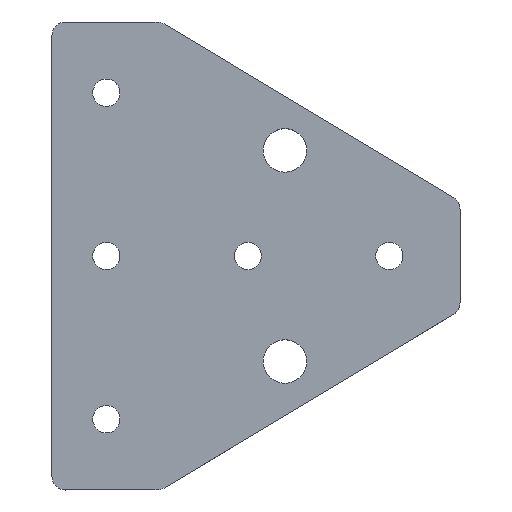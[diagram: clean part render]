
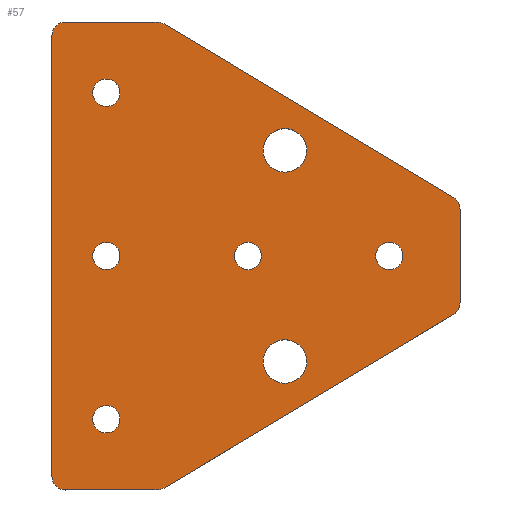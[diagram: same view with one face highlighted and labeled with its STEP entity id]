
A CAD part, top view. The second image highlights one B-rep face of the part: STEP entity #57.
In plain terms, the highlighted planar face has unit normal (0, 0, 1).
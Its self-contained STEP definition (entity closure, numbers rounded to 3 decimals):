
#57=ADVANCED_FACE('',(#258,#260,#262,#264,#266,#268,#270,#272),#274,.T.);
#258=FACE_BOUND('',#259,.T.);
#259=EDGE_LOOP('',(#445,#446,#447,#448,#449,#450,#451,#452,#453,#454,#455,#456));
#260=FACE_BOUND('',#261,.T.);
#261=EDGE_LOOP('',(#457));
#262=FACE_BOUND('',#263,.T.);
#263=EDGE_LOOP('',(#458));
#264=FACE_BOUND('',#265,.T.);
#265=EDGE_LOOP('',(#459));
#266=FACE_BOUND('',#267,.T.);
#267=EDGE_LOOP('',(#460));
#268=FACE_BOUND('',#269,.T.);
#269=EDGE_LOOP('',(#461));
#270=FACE_BOUND('',#271,.T.);
#271=EDGE_LOOP('',(#462));
#272=FACE_BOUND('',#273,.T.);
#273=EDGE_LOOP('',(#463));
#274=PLANE('',#275);
#275=AXIS2_PLACEMENT_3D('',#276,#277,#278);
#276=CARTESIAN_POINT('',(0.,0.,3.));
#277=DIRECTION('',(0.,0.,1.));
#278=DIRECTION('',(-1.,0.,0.));
#445=ORIENTED_EDGE('',*,*,#545,.T.);
#446=ORIENTED_EDGE('',*,*,#546,.T.);
#447=ORIENTED_EDGE('',*,*,#547,.T.);
#448=ORIENTED_EDGE('',*,*,#548,.T.);
#449=ORIENTED_EDGE('',*,*,#549,.T.);
#450=ORIENTED_EDGE('',*,*,#550,.T.);
#451=ORIENTED_EDGE('',*,*,#551,.T.);
#452=ORIENTED_EDGE('',*,*,#552,.T.);
#453=ORIENTED_EDGE('',*,*,#553,.T.);
#454=ORIENTED_EDGE('',*,*,#554,.T.);
#455=ORIENTED_EDGE('',*,*,#555,.T.);
#456=ORIENTED_EDGE('',*,*,#556,.T.);
#457=ORIENTED_EDGE('',*,*,#557,.T.);
#458=ORIENTED_EDGE('',*,*,#558,.T.);
#459=ORIENTED_EDGE('',*,*,#559,.T.);
#460=ORIENTED_EDGE('',*,*,#560,.T.);
#461=ORIENTED_EDGE('',*,*,#561,.T.);
#462=ORIENTED_EDGE('',*,*,#562,.T.);
#463=ORIENTED_EDGE('',*,*,#563,.T.);
#545=EDGE_CURVE('',#614,#615,#616,.T.);
#546=EDGE_CURVE('',#615,#617,#618,.T.);
#547=EDGE_CURVE('',#617,#619,#620,.T.);
#548=EDGE_CURVE('',#619,#621,#622,.T.);
#549=EDGE_CURVE('',#621,#623,#624,.T.);
#550=EDGE_CURVE('',#623,#625,#626,.T.);
#551=EDGE_CURVE('',#625,#627,#628,.T.);
#552=EDGE_CURVE('',#627,#629,#630,.T.);
#553=EDGE_CURVE('',#629,#631,#632,.T.);
#554=EDGE_CURVE('',#631,#633,#634,.T.);
#555=EDGE_CURVE('',#633,#635,#636,.T.);
#556=EDGE_CURVE('',#635,#614,#637,.T.);
#557=EDGE_CURVE('',#638,#638,#639,.F.);
#558=EDGE_CURVE('',#640,#640,#641,.F.);
#559=EDGE_CURVE('',#642,#642,#643,.F.);
#560=EDGE_CURVE('',#644,#644,#645,.F.);
#561=EDGE_CURVE('',#646,#646,#647,.F.);
#562=EDGE_CURVE('',#648,#648,#649,.F.);
#563=EDGE_CURVE('',#650,#650,#651,.F.);
#614=VERTEX_POINT('',#753);
#615=VERTEX_POINT('',#754);
#616=CIRCLE('',#755,2.5);
#617=VERTEX_POINT('',#759);
#618=LINE('',#760,#761);
#619=VERTEX_POINT('',#763);
#620=CIRCLE('',#764,2.5);
#621=VERTEX_POINT('',#768);
#622=LINE('',#769,#770);
#623=VERTEX_POINT('',#772);
#624=CIRCLE('',#773,2.5);
#625=VERTEX_POINT('',#777);
#626=LINE('',#778,#779);
#627=VERTEX_POINT('',#781);
#628=CIRCLE('',#782,2.5);
#629=VERTEX_POINT('',#786);
#630=LINE('',#787,#788);
#631=VERTEX_POINT('',#790);
#632=CIRCLE('',#791,2.5);
#633=VERTEX_POINT('',#795);
#634=LINE('',#796,#797);
#635=VERTEX_POINT('',#799);
#636=CIRCLE('',#800,2.5);
#637=LINE('',#804,#805);
#638=VERTEX_POINT('',#807);
#639=CIRCLE('',#808,4.);
#640=VERTEX_POINT('',#812);
#641=CIRCLE('',#813,4.);
#642=VERTEX_POINT('',#817);
#643=CIRCLE('',#818,2.5);
#644=VERTEX_POINT('',#822);
#645=CIRCLE('',#823,2.5);
#646=VERTEX_POINT('',#827);
#647=CIRCLE('',#828,2.5);
#648=VERTEX_POINT('',#832);
#649=CIRCLE('',#833,2.5);
#650=VERTEX_POINT('',#837);
#651=CIRCLE('',#838,2.5);
#753=CARTESIAN_POINT('',(2.5,43.,3.));
#754=CARTESIAN_POINT('',(0.,40.5,3.));
#755=AXIS2_PLACEMENT_3D('',#756,#757,#758);
#756=CARTESIAN_POINT('',(2.5,40.5,3.));
#757=DIRECTION('',(0.,0.,1.));
#758=DIRECTION('',(0.,1.,0.));
#759=CARTESIAN_POINT('',(0.,-40.5,3.));
#760=CARTESIAN_POINT('',(0.,40.5,3.));
#761=VECTOR('',#762,1.);
#762=DIRECTION('',(0.,-1.,0.));
#763=CARTESIAN_POINT('',(2.5,-43.,3.));
#764=AXIS2_PLACEMENT_3D('',#765,#766,#767);
#765=CARTESIAN_POINT('',(2.5,-40.5,3.));
#766=DIRECTION('',(0.,0.,1.));
#767=DIRECTION('',(-1.,0.,0.));
#768=CARTESIAN_POINT('',(19.308,-43.,3.));
#769=CARTESIAN_POINT('',(2.5,-43.,3.));
#770=VECTOR('',#771,1.);
#771=DIRECTION('',(1.,0.,0.));
#772=CARTESIAN_POINT('',(20.594,-42.644,3.));
#773=AXIS2_PLACEMENT_3D('',#774,#775,#776);
#774=CARTESIAN_POINT('',(19.308,-40.5,3.));
#775=DIRECTION('',(0.,0.,1.));
#776=DIRECTION('',(0.,-1.,0.));
#777=CARTESIAN_POINT('',(73.786,-10.728,3.));
#778=CARTESIAN_POINT('',(20.594,-42.644,3.));
#779=VECTOR('',#780,1.);
#780=DIRECTION('',(0.857,0.514,0.));
#781=CARTESIAN_POINT('',(75.,-8.585,3.));
#782=AXIS2_PLACEMENT_3D('',#783,#784,#785);
#783=CARTESIAN_POINT('',(72.5,-8.585,3.));
#784=DIRECTION('',(0.,0.,1.));
#785=DIRECTION('',(0.514,-0.857,0.));
#786=CARTESIAN_POINT('',(75.,8.585,3.));
#787=CARTESIAN_POINT('',(75.,-8.585,3.));
#788=VECTOR('',#789,1.);
#789=DIRECTION('',(0.,1.,0.));
#790=CARTESIAN_POINT('',(73.786,10.728,3.));
#791=AXIS2_PLACEMENT_3D('',#792,#793,#794);
#792=CARTESIAN_POINT('',(72.5,8.585,3.));
#793=DIRECTION('',(0.,0.,1.));
#794=DIRECTION('',(1.,0.,0.));
#795=CARTESIAN_POINT('',(20.594,42.644,3.));
#796=CARTESIAN_POINT('',(73.786,10.728,3.));
#797=VECTOR('',#798,1.);
#798=DIRECTION('',(-0.857,0.514,0.));
#799=CARTESIAN_POINT('',(19.308,43.,3.));
#800=AXIS2_PLACEMENT_3D('',#801,#802,#803);
#801=CARTESIAN_POINT('',(19.308,40.5,3.));
#802=DIRECTION('',(0.,0.,1.));
#803=DIRECTION('',(0.514,0.857,0.));
#804=CARTESIAN_POINT('',(19.308,43.,3.));
#805=VECTOR('',#806,1.);
#806=DIRECTION('',(-1.,0.,0.));
#807=CARTESIAN_POINT('',(38.817,19.397,3.));
#808=AXIS2_PLACEMENT_3D('',#809,#810,#811);
#809=CARTESIAN_POINT('',(42.817,19.397,3.));
#810=DIRECTION('',(0.,0.,1.));
#811=DIRECTION('',(-1.,0.,0.));
#812=CARTESIAN_POINT('',(38.817,-19.397,3.));
#813=AXIS2_PLACEMENT_3D('',#814,#815,#816);
#814=CARTESIAN_POINT('',(42.817,-19.397,3.));
#815=DIRECTION('',(0.,0.,1.));
#816=DIRECTION('',(-1.,0.,0.));
#817=CARTESIAN_POINT('',(10.,-2.5,3.));
#818=AXIS2_PLACEMENT_3D('',#819,#820,#821);
#819=CARTESIAN_POINT('',(10.,0.,3.));
#820=DIRECTION('',(0.,0.,1.));
#821=DIRECTION('',(0.,-1.,0.));
#822=CARTESIAN_POINT('',(36.,-2.5,3.));
#823=AXIS2_PLACEMENT_3D('',#824,#825,#826);
#824=CARTESIAN_POINT('',(36.,0.,3.));
#825=DIRECTION('',(0.,0.,1.));
#826=DIRECTION('',(0.,-1.,0.));
#827=CARTESIAN_POINT('',(10.,-32.5,3.));
#828=AXIS2_PLACEMENT_3D('',#829,#830,#831);
#829=CARTESIAN_POINT('',(10.,-30.,3.));
#830=DIRECTION('',(0.,0.,1.));
#831=DIRECTION('',(0.,-1.,0.));
#832=CARTESIAN_POINT('',(62.,-2.5,3.));
#833=AXIS2_PLACEMENT_3D('',#834,#835,#836);
#834=CARTESIAN_POINT('',(62.,0.,3.));
#835=DIRECTION('',(0.,0.,1.));
#836=DIRECTION('',(0.,-1.,0.));
#837=CARTESIAN_POINT('',(10.,27.5,3.));
#838=AXIS2_PLACEMENT_3D('',#839,#840,#841);
#839=CARTESIAN_POINT('',(10.,30.,3.));
#840=DIRECTION('',(0.,0.,1.));
#841=DIRECTION('',(0.,-1.,0.));
